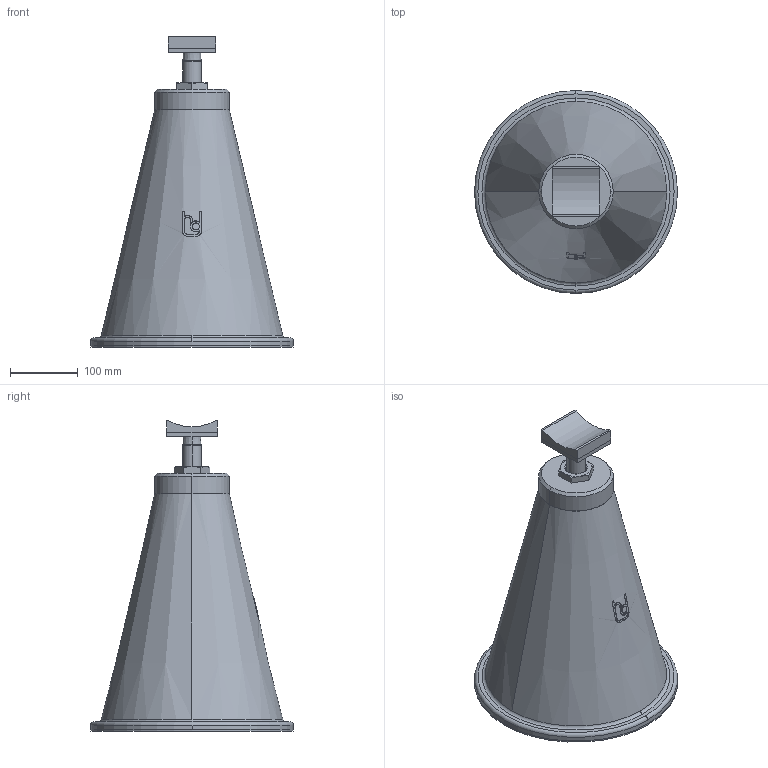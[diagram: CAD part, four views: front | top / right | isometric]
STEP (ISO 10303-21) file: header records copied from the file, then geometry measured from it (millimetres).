
FILE_DESCRIPTION(('STEP AP214'),'1');
FILE_NAME('RSRFB_DN125.stp','2018-06-26T06:44:13',(' '),(' '),'Spatial InterOp 3D',' ',' ');
FILE_SCHEMA(('automotive_design'));
Length unit declared in the file: millimetre
Products named in the file (6): 3; 5; 6; 1; 4; 2
Bounding box: 300 x 300 x 459 mm (x, y, z)
Volume: 11647832.9 mm3; surface area: 537308.7 mm2
Topology: 6 solids, 7 shells, 118 faces, 277 edges, 177 vertices
Faces by surface type: plane 51, cylinder 34, cone 25, torus 8
Entity records: 4719 total; most frequent: CARTESIAN_POINT 929, DIRECTION 586, ORIENTED_EDGE 554, EDGE_CURVE 277, AXIS2_PLACEMENT_3D 226, VERTEX_POINT 177, LINE 134, VECTOR 134
